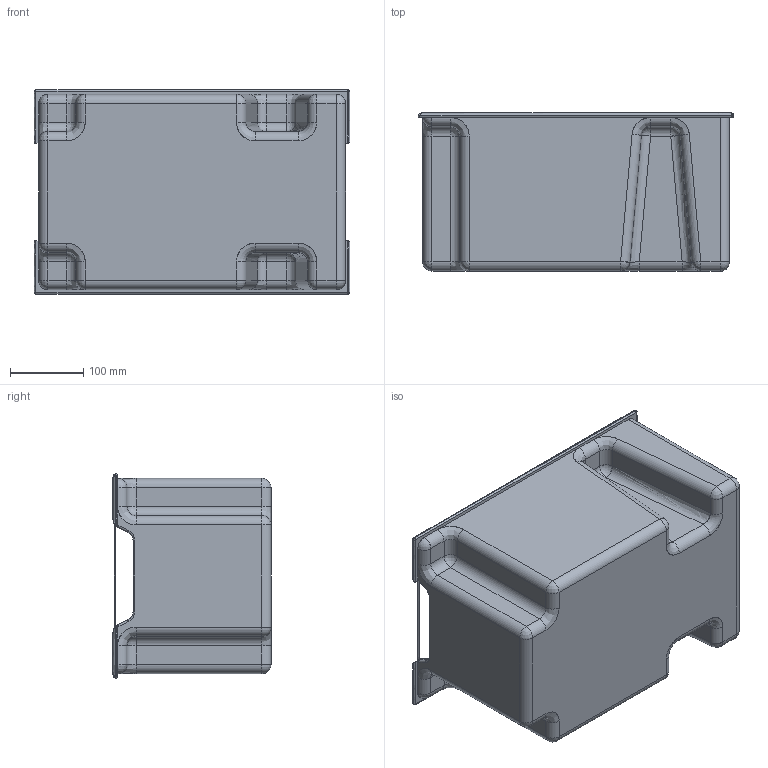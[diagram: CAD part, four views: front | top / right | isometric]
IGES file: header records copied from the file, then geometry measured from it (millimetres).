
Start section: SolidWorks IGES file using analytic representation for surfaces
Global section: file name: C:\Users\bconder\Documents\Production Models\MacroTotes\9FV\9FV Block Model.IGS; native system: SolidWorks 2013; preprocessor: SolidWorks 2013; author: bconder; date: 130603.105418; units: inch
Bounding box: 431.34 x 215.9 x 279.21 mm (x, y, z)
Surface area: 811576.3 mm2 (no closed solid volume)
Topology: 0 solids, 0 shells, 331 faces, 2584 edges, 2567 vertices
Faces by surface type: revolution 185, bspline 146
